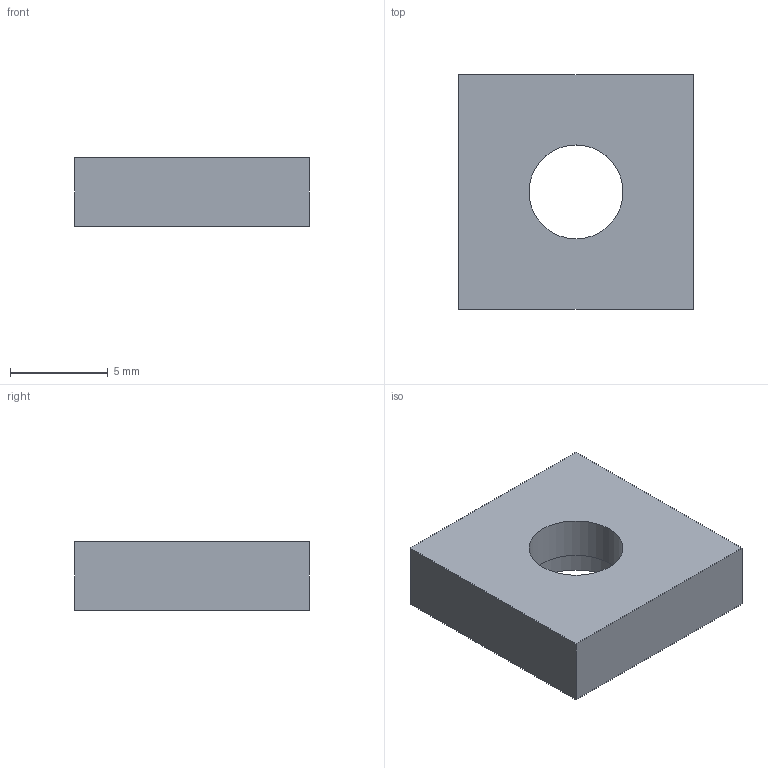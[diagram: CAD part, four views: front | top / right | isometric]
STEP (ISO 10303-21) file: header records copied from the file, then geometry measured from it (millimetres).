
FILE_DESCRIPTION(('Open CASCADE Model'),'2;1');
FILE_NAME('Open CASCADE Shape Model','2026-09-15T13:32:55',('Author'),( 'Open CASCADE'),'Open CASCADE STEP processor 7.7','Open CASCADE 7.7' ,'Unknown');
FILE_SCHEMA(('AUTOMOTIVE_DESIGN { 1 0 10303 214 1 1 1 1 }'));
Length unit declared in the file: millimetre
Products named in the file (1): QP04_LENS_FLANGE_D6.0
Bounding box: 12 x 12 x 3.5 mm (x, y, z)
Volume: 426.9 mm3; surface area: 477.7 mm2
Topology: 1 solids, 1 shells, 9 faces, 18 edges, 12 vertices
Faces by surface type: plane 7, cylinder 2
Full cylindrical faces by diameter (mm): 4.8 x1, 6 x1
Entity records: 484 total; most frequent: DIRECTION 78, CARTESIAN_POINT 76, LINE 46, VECTOR 46, ORIENTED_EDGE 36, PCURVE 36, DEFINITIONAL_REPRESENTATION 36, EDGE_CURVE 18
